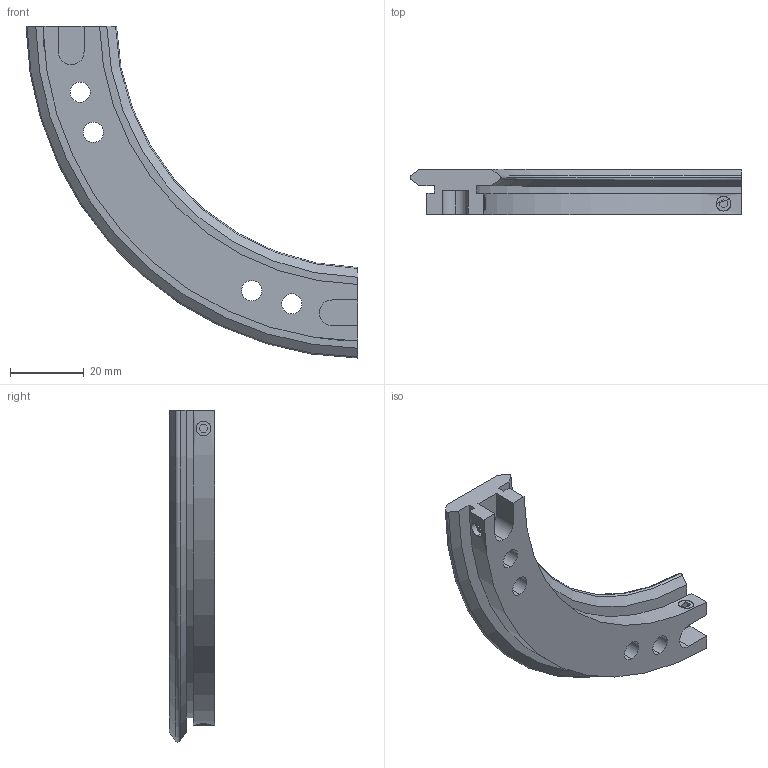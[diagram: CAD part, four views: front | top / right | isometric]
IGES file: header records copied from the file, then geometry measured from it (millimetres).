
Start section: 3D InterOp IGES (v. 2019 1.0.2), Spatial Corp. Copyright (c) 1999-2017.
Global section: file name: TR25 159 R90.igs; native system: Spatial Corp.; preprocessor: 3D InterOp GENERIC/IGES 3.0; author: Noname; organization: Noname; date: 20220628.092359; units: millimetre
Bounding box: 90.29 x 12.25 x 90.29 mm (x, y, z)
Surface area: 10966 mm2 (no closed solid volume)
Topology: 0 solids, 0 shells, 88 faces, 444 edges, 444 vertices
Faces by surface type: extrusion 50, revolution 38
